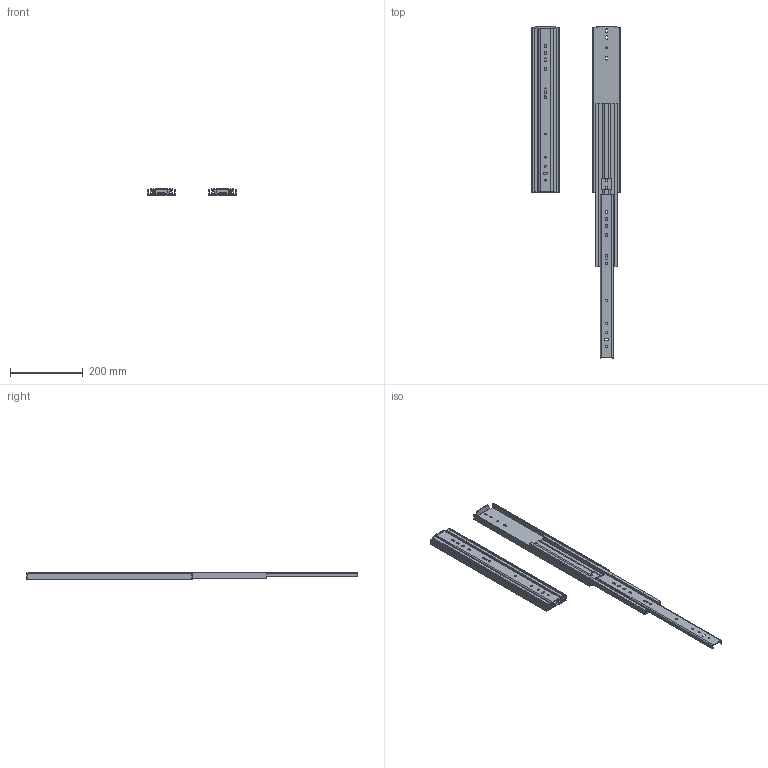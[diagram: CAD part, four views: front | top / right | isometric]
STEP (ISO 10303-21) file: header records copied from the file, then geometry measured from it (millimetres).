
FILE_DESCRIPTION((''),'2;1');
FILE_NAME('ASSEM1_1_2_3_4_5_6_ASM','2026-04-07T16:30:13',('T260078'),(''),'CREO PARAMETRIC BY PTC INC, 2025123','CREO PARAMETRIC BY PTC INC, 2025123','');
FILE_SCHEMA(('CONFIG_CONTROL_DESIGN','SHAPE_APPEARANCE_LAYERS_GROUPS'));
Length unit declared in the file: millimetre
Products named in the file (6): 76J01-18_X2_540B_X0_-M; 76J01-18_X2_540B_X0_-I; 76J01-18_X2_540B_X0_-O; 76J01-18_X2_540_X0__ASM; 76J01-18_X2_540B_X0_-_X2_5C5595_ASM; ASSEM1_1_2_3_4_5_6_ASM
Assembly tree (8 placements, depth 3):
  ASSEM1_1_2_3_4_5_6_ASM
    76J01-18_X2_540_X0__ASM
      76J01-18_X2_540B_X0_-M
      76J01-18_X2_540B_X0_-I
      76J01-18_X2_540B_X0_-O
    76J01-18_X2_540B_X0_-_X2_5C5595_ASM
      76J01-18_X2_540B_X0_-M
      76J01-18_X2_540B_X0_-I
      76J01-18_X2_540B_X0_-O
Bounding box: 245.44 x 914.4 x 19.3 mm (x, y, z)
Volume: 557365.5 mm3; surface area: 501244.6 mm2
Topology: 6 solids, 6 shells, 336 faces, 1054 edges, 722 vertices
Faces by surface type: plane 180, cylinder 156
Entity records: 7272 total; most frequent: CARTESIAN_POINT 1101, DIRECTION 1074, ORIENTED_EDGE 1054, EDGE_CURVE 527, AXIS2_PLACEMENT_3D 366, VERTEX_POINT 361, VECTOR 342, LINE 342
